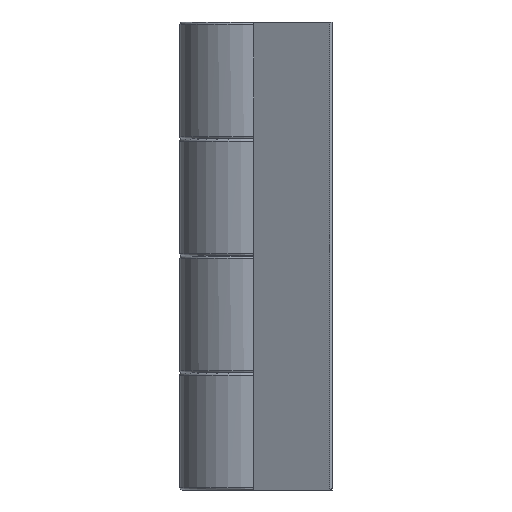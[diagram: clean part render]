
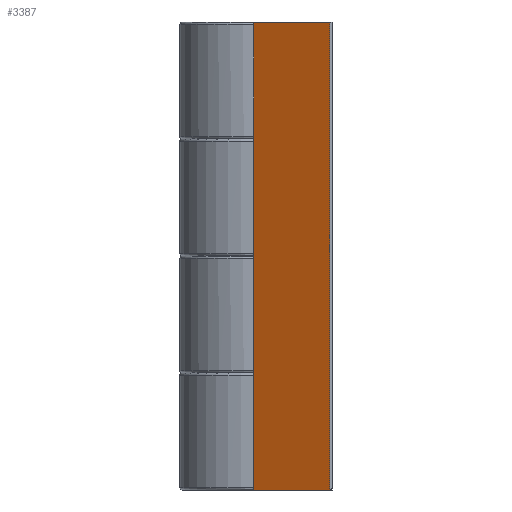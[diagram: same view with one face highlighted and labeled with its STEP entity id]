
A CAD part, left-side view. The second image highlights one B-rep face of the part: STEP entity #3387.
In plain terms, the highlighted planar face has unit normal (-0.88, 0.474, 0).
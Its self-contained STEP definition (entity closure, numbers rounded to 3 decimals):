
#206 = CARTESIAN_POINT ( 'NONE',  ( 2.106, 15.406, 48.22 ) ) ;
#428 = LINE ( 'NONE', #4849, #511 ) ;
#433 = LINE ( 'NONE', #4853, #1934 ) ;
#464 = CARTESIAN_POINT ( 'NONE',  ( 5.606, 21.906, 48.22 ) ) ;
#475 = VECTOR ( 'NONE', #1676, 1000. ) ;
#511 = VECTOR ( 'NONE', #4324, 1000. ) ;
#761 = VERTEX_POINT ( 'NONE', #464 ) ;
#833 = VECTOR ( 'NONE', #2546, 1000. ) ;
#933 = EDGE_LOOP ( 'NONE', ( #4505, #2354, #1351, #3727 ) ) ;
#972 = EDGE_CURVE ( 'NONE', #2655, #1994, #428, .T. ) ;
#1158 = CARTESIAN_POINT ( 'NONE',  ( 2.106, 15.406, 48.22 ) ) ;
#1325 = VERTEX_POINT ( 'NONE', #1158 ) ;
#1351 = ORIENTED_EDGE ( 'NONE', *, *, #972, .F. ) ;
#1648 = CARTESIAN_POINT ( 'NONE',  ( 2.106, 15.406, 8.22 ) ) ;
#1676 = DIRECTION ( 'NONE',  ( 0., 0., 1. ) ) ;
#1721 = PLANE ( 'NONE',  #3804 ) ;
#1934 = VECTOR ( 'NONE', #4330, 1000. ) ;
#1994 = VERTEX_POINT ( 'NONE', #2062 ) ;
#2062 = CARTESIAN_POINT ( 'NONE',  ( 5.606, 21.906, 8.22 ) ) ;
#2179 = CARTESIAN_POINT ( 'NONE',  ( 5.606, 21.906, 48.22 ) ) ;
#2354 = ORIENTED_EDGE ( 'NONE', *, *, #4044, .F. ) ;
#2546 = DIRECTION ( 'NONE',  ( 0., 0., -1. ) ) ;
#2655 = VERTEX_POINT ( 'NONE', #1648 ) ;
#2666 = LINE ( 'NONE', #2179, #475 ) ;
#2814 = EDGE_CURVE ( 'NONE', #1325, #2655, #3541, .T. ) ;
#3045 = CARTESIAN_POINT ( 'NONE',  ( 2.106, 15.406, 48.22 ) ) ;
#3387 = ADVANCED_FACE ( 'NONE', ( #4575 ), #1721, .F. ) ;
#3541 = LINE ( 'NONE', #3045, #833 ) ;
#3727 = ORIENTED_EDGE ( 'NONE', *, *, #2814, .F. ) ;
#3804 = AXIS2_PLACEMENT_3D ( 'NONE', #206, #4614, #4110 ) ;
#4044 = EDGE_CURVE ( 'NONE', #1994, #761, #2666, .T. ) ;
#4110 = DIRECTION ( 'NONE',  ( 0., 0., -1. ) ) ;
#4324 = DIRECTION ( 'NONE',  ( 0.474, 0.88, 0. ) ) ;
#4330 = DIRECTION ( 'NONE',  ( -0.474, -0.88, 0. ) ) ;
#4449 = EDGE_CURVE ( 'NONE', #761, #1325, #433, .T. ) ;
#4505 = ORIENTED_EDGE ( 'NONE', *, *, #4449, .F. ) ;
#4575 = FACE_OUTER_BOUND ( 'NONE', #933, .T. ) ;
#4614 = DIRECTION ( 'NONE',  ( 0.88, -0.474, 0. ) ) ;
#4849 = CARTESIAN_POINT ( 'NONE',  ( 2.106, 15.406, 8.22 ) ) ;
#4853 = CARTESIAN_POINT ( 'NONE',  ( 10.692, 31.351, 48.22 ) ) ;
